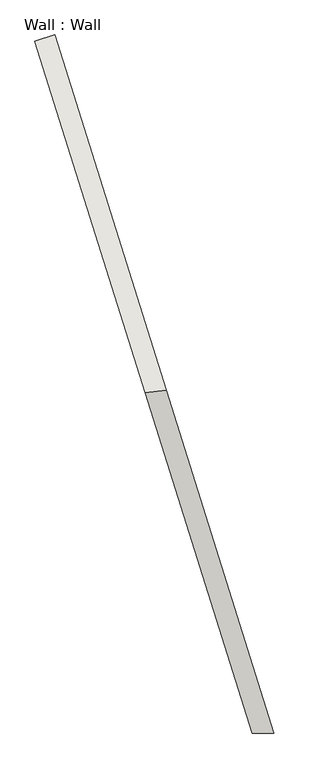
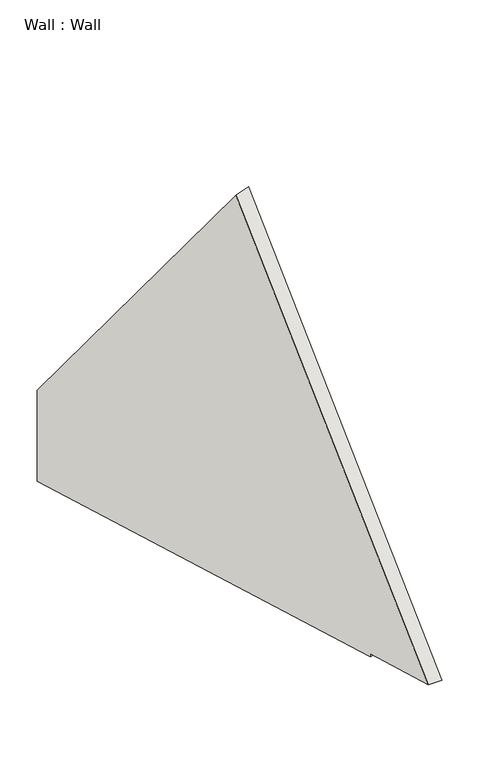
"""IFC4 building model written with IfcOpenShell, lengths in millimetres: wall geometry, Wall : Wall."""

from ifc_helpers import new_model, si_unit, origin, place, context, project, spatial, faceted_brep, source, transform, mapped, element, save


def wall_wall_63b974ed(model_context):
    return source(origin(), model_context, "Body", "Brep", [
        faceted_brep([(3569.5076631, -3615.3504326, 2657.1961848), (3569.5076631, -3615.3504326, 2600.0), (1342.6622584, 3480.4540173, 2600.0), (1342.6622584, 3480.4540173, 4427.0988649), (2685.6054376, -798.8112461, 10495.412286), (3980.7773661, -4925.8542436, 2657.1961848), (3330.9778654, -3690.2072001, 2600.0), (3330.9778654, -3690.2072001, 2657.1961848), (3718.7555952, -4925.8542436, 2657.1961848), (2433.6259547, -830.8108237, 10434.6376333), (1104.1324607, 3405.5972498, 4427.0988649), (1104.1324607, 3405.5972498, 2600.0)], [[[0, 1, 2, 3, 4, 5]], [[6, 7, 8, 9, 10, 11]], [[7, 0, 5, 8]], [[0, 7, 6, 1]], [[1, 6, 11, 2]], [[3, 10, 9, 4]], [[10, 3, 2, 11]], [[5, 4, 9, 8]]]),
    ])


if __name__ == "__main__":
    model = new_model("IFC4")
    model_context = context("Model", 3, world=origin())
    ifc_project = project(units=[si_unit("LENGTHUNIT", "METRE", prefix="MILLI")], contexts=[model_context])
    site = spatial("IfcSite", under=ifc_project)
    building = spatial("IfcBuilding", under=site)
    placement = place(None, origin())
    wall_wall_shape = wall_wall_63b974ed(model_context)
    element("IfcWall", 1, ObjectType="Wall : Wall", at=placement, inside=building, context=model_context, shape_type="MappedRepresentation", body=[
        mapped(wall_wall_shape, transform((0.0, 0.0, 0.0), x_axis=(1.0, 0.0, 0.0), y_axis=(0.0, 1.0, 0.0), z_axis=(0.0, 0.0, 1.0))),
    ])
    save(model, "model.ifc")
